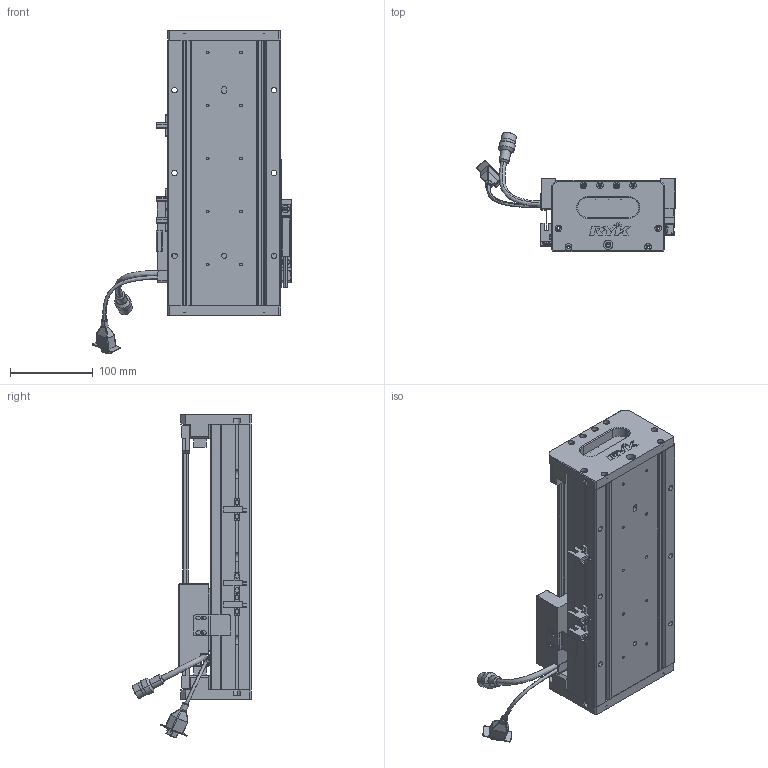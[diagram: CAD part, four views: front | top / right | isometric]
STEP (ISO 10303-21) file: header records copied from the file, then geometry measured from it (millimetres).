
FILE_DESCRIPTION (( 'STEP AP203' ), '1' );
FILE_NAME ('Z1-RY140D-1-L500-B-K.SLDASM_0150.step', '2021-05-17T07:30:13', ( '盈信电脑' ), ( '东莞市道滘镇水果街19号' ), 'SwSTEP 2.0', 'SolidWorks 2016', '' );
FILE_SCHEMA (( 'CONFIG_CONTROL_DESIGN' ));
Length unit declared in the file: millimetre
Products named in the file (36): LABEL-Part-1; SEAL; LABEL; 覜茼ん672; 140雄赽晤鎢ん堤盄; 榋妏寠巭燃_暯_M2_2; HARNESS-Part-1; Z-140詩湍傷裔啣; COVER; Z-RY140感应器672光电感应片; Z1-RY140D-1-L500-B-K.SLDASM_0150; Z1-RY140圉猾敕臏賑輸(21遴); SCREW-M1.6; SCREW-M1.6-1; COVER-Part-1; HOLDER0; SCREW-M1.6-2; HARNESS-Part-2; 080黍杅芛假蚾釱21遴; HARNESS; Z-RY140詩湍奻揤裔; Z-RY140詩湍狟揤裔; 140蚥薯蝶輸; SCREW-M1.7-1; SCREW-M1.7; SCREW-M1.6-3; Z1-RY140-L500詩湍100mm遵_0150; SCALE; SCALE-Part-2; 140-Z-臏賑輸盄裔(21遴); Z1-RY140-L500直线电机模组底座_0150; PBU_SHEET; SCALE-Part-1; PSLH080_PSLF2; SEAL-Part-1; SHIELDPLATE
Assembly tree (41 placements, depth 4):
  Z1-RY140D-1-L500-B-K.SLDASM_0150
    Z1-RY140-L500直线电机模组底座_0150
    Z-RY140感应器672光电感应片
    Z1-RY140圉猾敕臏賑輸(21遴)
    覜茼ん672  x3
    Z1-RY140-L500詩湍100mm遵_0150
    PSLH080_PSLF2
      SCALE
        SCALE-Part-1
        SCALE-Part-2
      HARNESS
        HARNESS-Part-1
        HARNESS-Part-2
      LABEL
        LABEL-Part-1
      COVER
        COVER-Part-1
      SEAL
        SEAL-Part-1
      榋妏寠巭燃_暯_M2_2
      SHIELDPLATE
      SCREW-M1.7
      SCREW-M1.7-1
      PBU_SHEET
      SCREW-M1.6
      SCREW-M1.6-1
      SCREW-M1.6-2
      SCREW-M1.6-3
      HOLDER0
    080黍杅芛假蚾釱21遴
    140-Z-臏賑輸盄裔(21遴)
    Z-140詩湍傷裔啣  x2
    Z-RY140詩湍狟揤裔  x2
    Z-RY140詩湍奻揤裔  x2
    140蚥薯蝶輸  x2
    140雄赽晤鎢ん堤盄
Bounding box: 239.84 x 143.88 x 390.88 mm (x, y, z)
Volume: 1707445.7 mm3; surface area: 466344.9 mm2
Topology: 36 solids, 36 shells, 2368 faces, 6106 edges, 3871 vertices
Faces by surface type: plane 1036, cylinder 988, cone 222, torus 69, bspline 53
Entity records: 65086 total; most frequent: CARTESIAN_POINT 14957, DIRECTION 9806, ORIENTED_EDGE 9460, EDGE_CURVE 4730, AXIS2_PLACEMENT_3D 3552, VERTEX_POINT 3039, VECTOR 2702, LINE 2702
